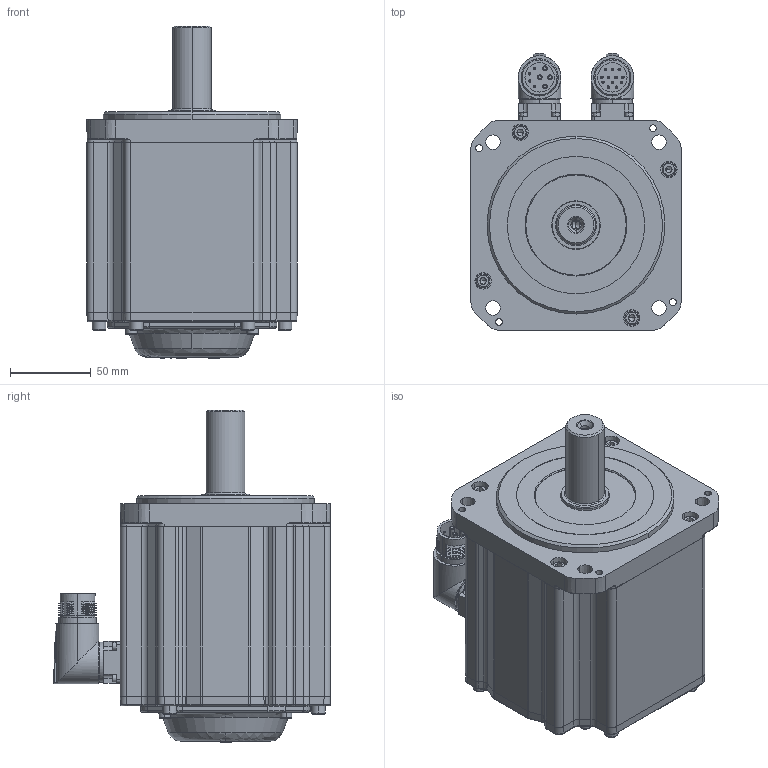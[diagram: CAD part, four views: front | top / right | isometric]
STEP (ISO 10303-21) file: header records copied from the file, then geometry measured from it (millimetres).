
FILE_DESCRIPTION (( 'STEP AP203' ), '1' );
FILE_NAME ('MC20-130-3M15-N851-0¡õPL-NNNN.STEP', '2025-07-29T15:06:26', ( '' ), ( '' ), 'SwSTEP 2.0', 'SolidWorks 2014', '' );
FILE_SCHEMA (( 'CONFIG_CONTROL_DESIGN' ));
Products named in the file (1): MC20-130-3M15-N851-0¡õPL-NNNN
Bounding box: 130 x 171.35 x 205.3 mm (x, y, z)
Volume: 2153159 mm3; surface area: 259850.3 mm2
Topology: 28 solids, 28 shells, 2022 faces, 4794 edges, 2857 vertices
Faces by surface type: plane 733, cylinder 567, cone 358, bspline 204, torus 148, sphere 12
Entity records: 62107 total; most frequent: CARTESIAN_POINT 16808, DIRECTION 9523, ORIENTED_EDGE 9364, EDGE_CURVE 4682, AXIS2_PLACEMENT_3D 3694, VERTEX_POINT 2857, EDGE_LOOP 2269, LINE 2135
